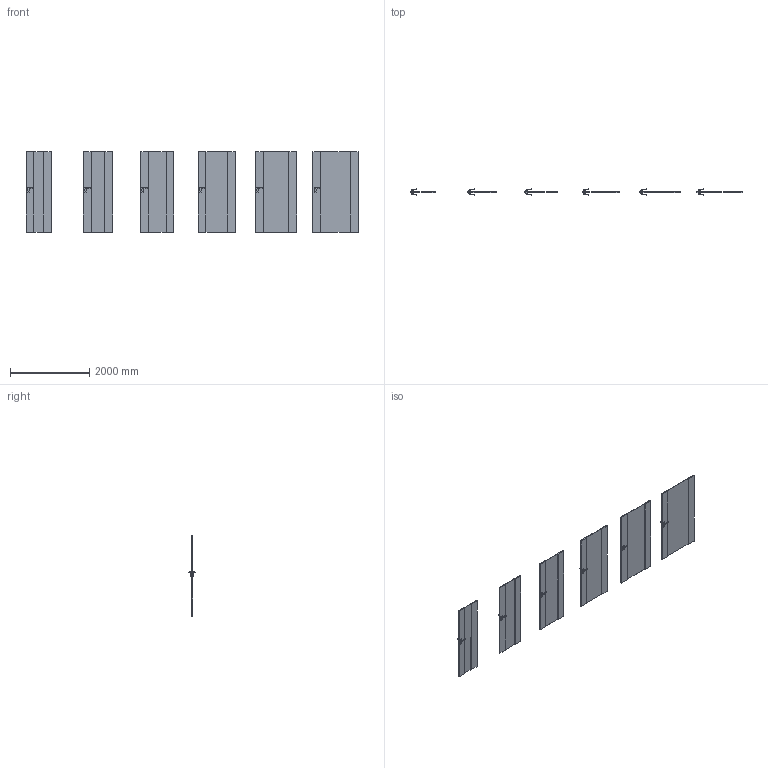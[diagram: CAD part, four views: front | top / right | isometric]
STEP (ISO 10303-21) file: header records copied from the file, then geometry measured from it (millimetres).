
FILE_DESCRIPTION(/* description */ (''),/* implementation_level */ '2;1');
FILE_NAME(/* name */ '049667_B_1-Skrzydło FOCUS model 4.B_ polska norma _PN__ odwrotna przylga..stp',/* time_stamp */ '2024-02-16T12:46:18+01:00',/* author */ (''),/* organization */ (''),/* preprocessor_version */ 'ST-DEVELOPER v16',/* originating_system */ 'SIEMENS PLM Software NX 11.0',/* authorisation */ '');
FILE_SCHEMA (('AUTOMOTIVE_DESIGN { 1 0 10303 214 3 1 1 1 }'));
Length unit declared in the file: millimetre
Products named in the file (1): bkni4C70E1ECxvyq
Bounding box: 8389 x 153.27 x 2027 mm (x, y, z)
Volume: 234615993 mm3; surface area: 23898340.9 mm2
Topology: 30 solids, 30 shells, 1164 faces, 2748 edges, 1536 vertices
Faces by surface type: plane 540, cylinder 264, bspline 192, sphere 168
Entity records: 38596 total; most frequent: CARTESIAN_POINT 13705, ORIENTED_EDGE 5160, DIRECTION 4886, EDGE_CURVE 2580, AXIS2_PLACEMENT_3D 1693, VERTEX_POINT 1536, LINE 1500, VECTOR 1500
